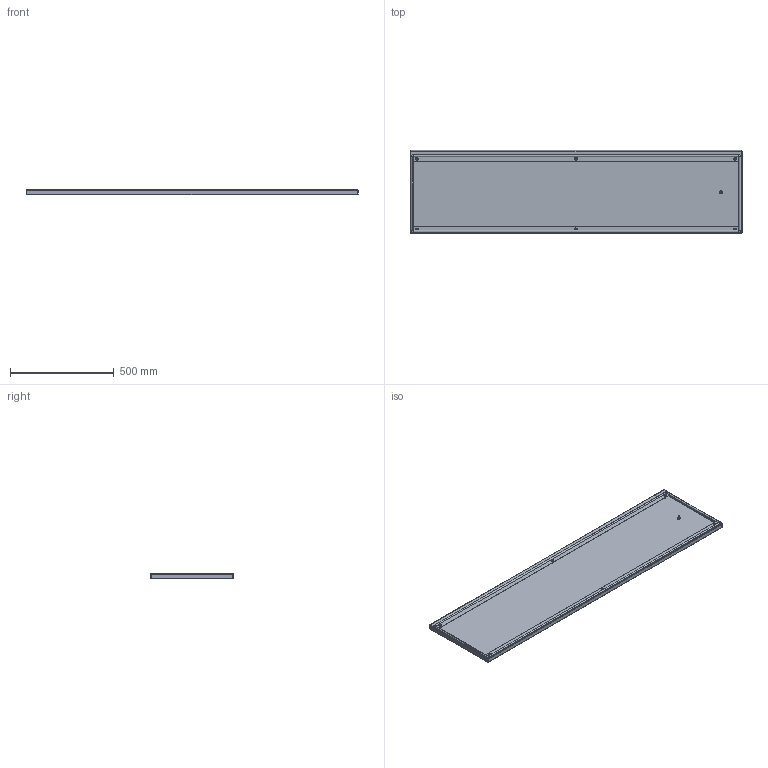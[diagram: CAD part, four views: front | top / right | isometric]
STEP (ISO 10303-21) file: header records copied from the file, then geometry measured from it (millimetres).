
FILE_DESCRIPTION (( 'STEP AP203' ), '1' );
FILE_NAME ('R 160.40 C Ïàíåëü êîíöåâàÿ íèæíåé ÷àñòè.STEP', '2013-01-14T08:30:55', ( 'Àëåêñàíäð' ), ( 'Ïðîâåíòî' ), 'SwSTEP 2.0', 'SolidWorks 2012', '' );
FILE_SCHEMA (( 'CONFIG_CONTROL_DESIGN' ));
Length unit declared in the file: millimetre
Products named in the file (1): R 160.40 C Ïàíåëü êîíöåâàÿ íèæíåé ÷àñòè
Bounding box: 1600 x 400 x 27 mm (x, y, z)
Volume: 1381555.9 mm3; surface area: 1737915.3 mm2
Topology: 3 solids, 3 shells, 196 faces, 429 edges, 262 vertices
Faces by surface type: cylinder 83, plane 53, torus 34, cone 18, sphere 8
Entity records: 5556 total; most frequent: DIRECTION 1081, CARTESIAN_POINT 952, ORIENTED_EDGE 842, AXIS2_PLACEMENT_3D 467, EDGE_CURVE 421, CIRCLE 270, VERTEX_POINT 262, EDGE_LOOP 243
